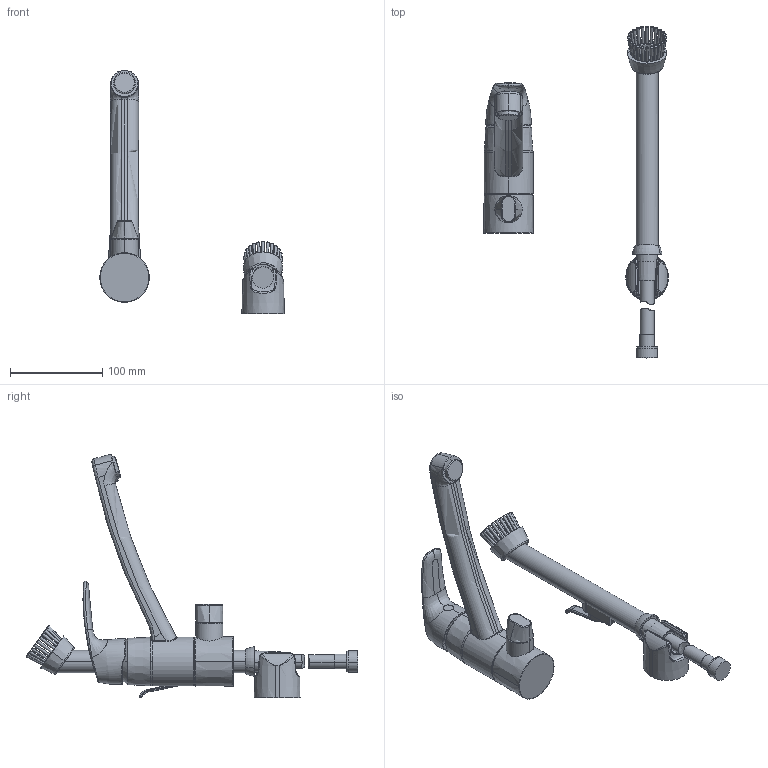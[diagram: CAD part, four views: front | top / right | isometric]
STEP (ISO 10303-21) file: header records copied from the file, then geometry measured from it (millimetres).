
FILE_DESCRIPTION (( 'STEP AP203' ), '1' );
FILE_NAME ('1027(2017).STEP', '2018-05-23T06:29:46', ( '' ), ( '' ), 'SwSTEP 2.0', 'SolidWorks 2016', '' );
FILE_SCHEMA (( 'CONFIG_CONTROL_DESIGN' ));
Length unit declared in the file: millimetre
Products named in the file (1): 1027(2017)
Bounding box: 199.79 x 359.42 x 263.57 mm (x, y, z)
Volume: 713380.3 mm3; surface area: 127263 mm2
Topology: 16 solids, 16 shells, 381 faces, 842 edges, 517 vertices
Faces by surface type: bspline 128, plane 94, cone 67, cylinder 54, torus 34, sphere 4
Entity records: 27163 total; most frequent: CARTESIAN_POINT 19767, ORIENTED_EDGE 1672, DIRECTION 1217, EDGE_CURVE 836, AXIS2_PLACEMENT_3D 518, VERTEX_POINT 517, EDGE_LOOP 411, B_SPLINE_CURVE_WITH_KNOTS 382
